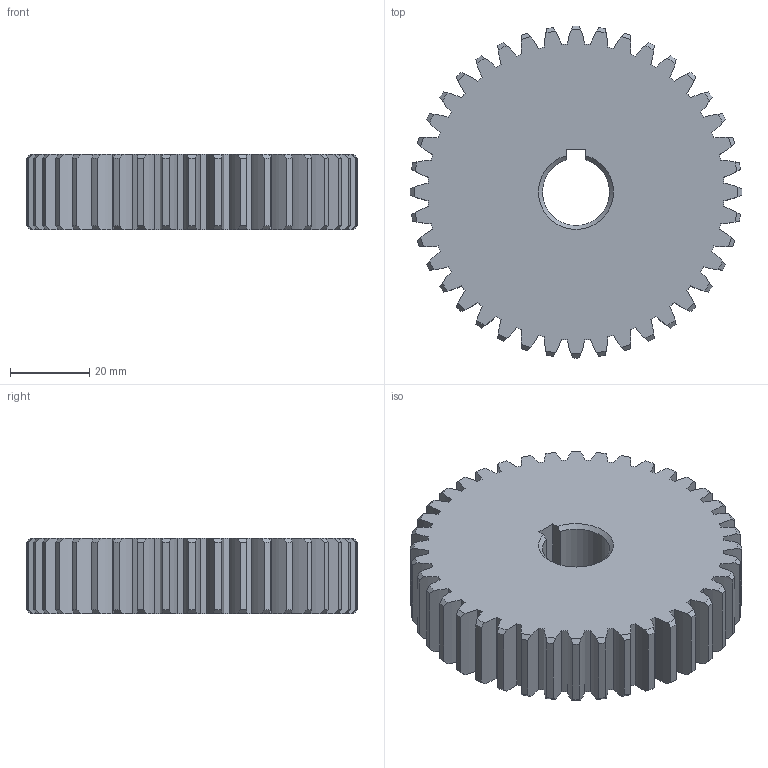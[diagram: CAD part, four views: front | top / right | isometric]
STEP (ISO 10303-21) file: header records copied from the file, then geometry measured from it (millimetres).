
FILE_DESCRIPTION(/* description */ (''),/* implementation_level */ '2;1');
FILE_NAME(/* name */ '',/* time_stamp */ '2025-03-27T10:57:26+09:00',/* author */ ('jhkim'),/* organization */ (''),/* preprocessor_version */ 'ST-DEVELOPER v20',/* originating_system */ 'Autodesk Inventor 2025',/* authorisation */ '');
FILE_SCHEMA (('AUTOMOTIVE_DESIGN { 1 0 10303 214 3 1 1 }'));
Length unit declared in the file: millimetre
Products named in the file (1): 스퍼기어
Bounding box: 84 x 84 x 19 mm (x, y, z)
Volume: 75366.9 mm3; surface area: 22219.9 mm2
Topology: 1 solids, 1 shells, 254 faces, 748 edges, 498 vertices
Faces by surface type: cylinder 163, cone 81, plane 7, torus 3
Full cylindrical faces by diameter (mm): 35 x1, 57 x1
Entity records: 8895 total; most frequent: CARTESIAN_POINT 1985, DIRECTION 1510, ORIENTED_EDGE 1496, EDGE_CURVE 748, AXIS2_PLACEMENT_3D 669, VERTEX_POINT 498, CIRCLE 414, EDGE_LOOP 258
